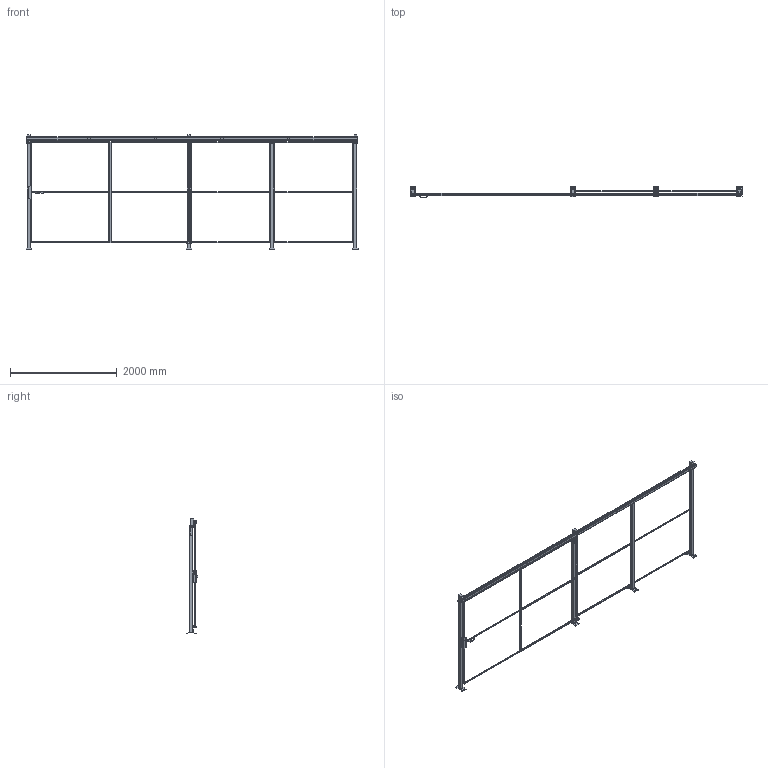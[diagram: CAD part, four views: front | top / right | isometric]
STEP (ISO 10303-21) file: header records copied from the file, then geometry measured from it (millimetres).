
FILE_DESCRIPTION(/* description */ (''),/* implementation_level */ '2;1');
FILE_NAME(/* name */ 'C:\SafeGuarding\ELABORATI\VZOR§POSUVNE_1950x2320_2025-02-13-13-33-50.stp',/* time_stamp */ '2025-02-13T13:33:53+01:00',/* author */ ('admin'),/* organization */ (''),/* preprocessor_version */ 'ST-DEVELOPER v18.1',/* originating_system */ 'AutoCAD Mechanical',/* authorisation */ '');
FILE_SCHEMA (('AUTOMOTIVE_DESIGN { 1 0 10303 214 3 1 1 }'));
Length unit declared in the file: millimetre
Products named in the file (4): Product; R_VFPA.REPE20.15001900; DATI_PORTA; P_VFMA.ME60SDU.2020
Assembly tree (9 placements, depth 2):
  Product
    P_VFMA.ME60SDU.2020  x4
    R_VFPA.REPE20.15001900  x4
    DATI_PORTA
Bounding box: 6230 x 219.95 x 2154 mm (x, y, z)
Volume: 53622352 mm3; surface area: 7984162.5 mm2
Topology: 51 solids, 62 shells, 701 faces, 2386 edges, 2460 vertices
Faces by surface type: plane 651, cylinder 48, sphere 2
Full cylindrical faces by diameter (mm): 11 x16, 12 x2, 15 x4, 40 x4
Entity records: 15505 total; most frequent: CARTESIAN_POINT 3213, DIRECTION 2354, ORIENTED_EDGE 2334, EDGE_CURVE 1216, LINE 1172, VECTOR 1172, VERTEX_POINT 852, AXIS2_PLACEMENT_3D 591
